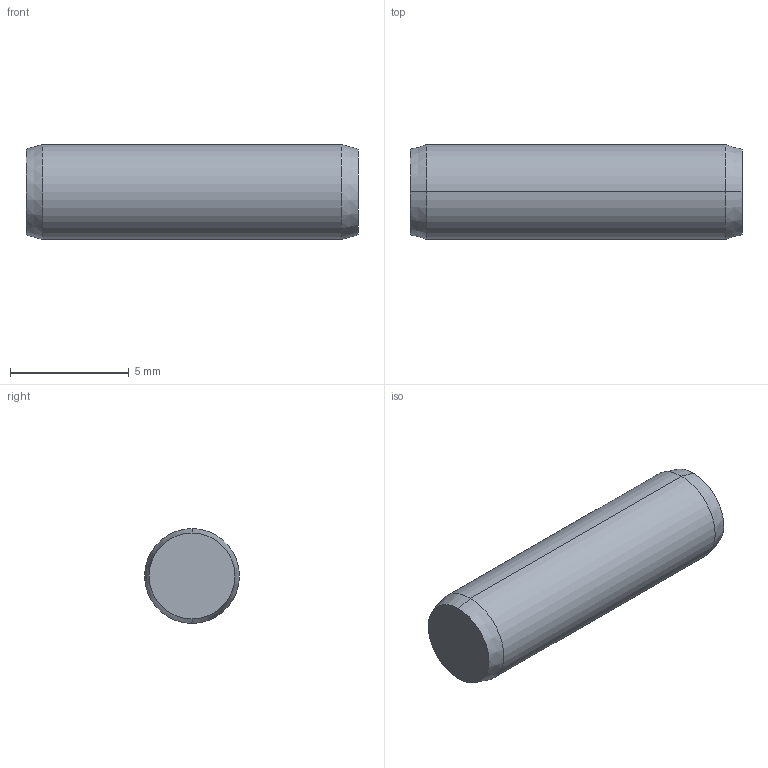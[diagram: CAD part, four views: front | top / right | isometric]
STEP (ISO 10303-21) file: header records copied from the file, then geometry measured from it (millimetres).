
FILE_DESCRIPTION (( 'STEP AP203' ), '1' );
FILE_NAME ('P1206.040-014.step', '2017-06-14T08:09:38', ( 'User' ), ( '' ), 'SwSTEP 2.0', 'SolidWorks 2009', '' );
FILE_SCHEMA (( 'CONFIG_CONTROL_DESIGN' ));
Length unit declared in the file: millimetre
Products named in the file (1): P1206.040-014
Bounding box: 14 x 4 x 4 mm (x, y, z)
Volume: 174.3 mm3; surface area: 196.3 mm2
Topology: 1 solids, 1 shells, 8 faces, 14 edges, 8 vertices
Faces by surface type: cone 4, cylinder 2, plane 2
Entity records: 271 total; most frequent: DIRECTION 40, CARTESIAN_POINT 31, ORIENTED_EDGE 28, AXIS2_PLACEMENT_3D 17, EDGE_CURVE 14, FACE_OUTER_BOUND 8, VERTEX_POINT 8, ADVANCED_FACE 8
